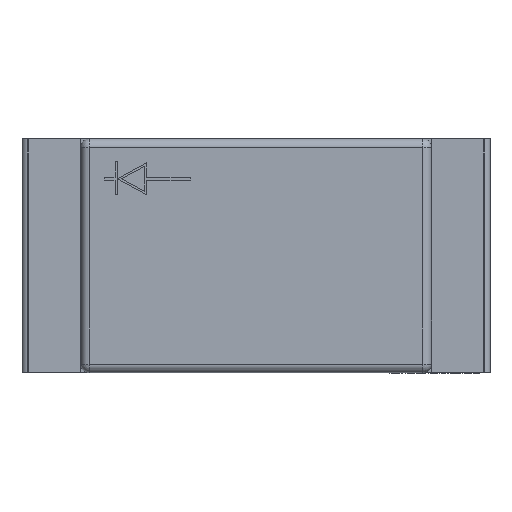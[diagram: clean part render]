
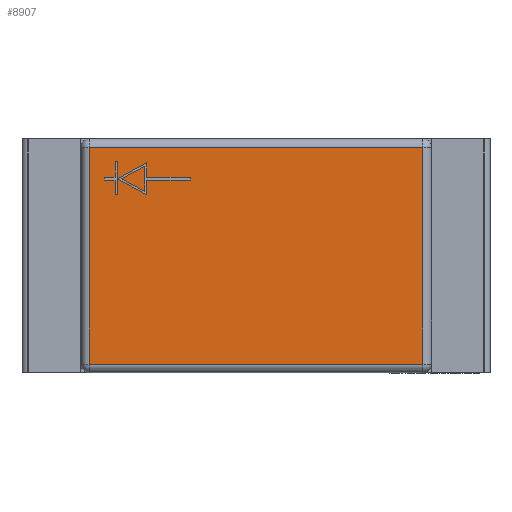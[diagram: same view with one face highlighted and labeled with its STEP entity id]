
A CAD part, top view. The second image highlights one B-rep face of the part: STEP entity #8907.
In plain terms, the highlighted planar face has unit normal (0, 0, 1) as drawn and (0, 1, 0) by its records, which use the part's own axes.
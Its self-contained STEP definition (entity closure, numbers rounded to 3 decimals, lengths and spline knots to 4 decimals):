
#648=PLANE('',#9462);
#977=FACE_OUTER_BOUND('',#1488,.T.);
#1488=EDGE_LOOP('',(#6345,#6346,#6347,#6348));
#2059=LINE('',#11785,#3009);
#2065=LINE('',#11806,#3015);
#2066=LINE('',#11810,#3016);
#2067=LINE('',#11811,#3017);
#3009=VECTOR('',#9986,1.14);
#3015=VECTOR('',#10010,0.74);
#3016=VECTOR('',#10015,0.74);
#3017=VECTOR('',#10016,1.14);
#4006=VERTEX_POINT('',#11779);
#4008=VERTEX_POINT('',#11783);
#4014=VERTEX_POINT('',#11805);
#4015=VERTEX_POINT('',#11809);
#4919=EDGE_CURVE('',#4008,#4006,#2059,.T.);
#4929=EDGE_CURVE('',#4006,#4014,#2065,.T.);
#4931=EDGE_CURVE('',#4015,#4008,#2066,.T.);
#4932=EDGE_CURVE('',#4014,#4015,#2067,.T.);
#6345=ORIENTED_EDGE('',*,*,#4919,.F.);
#6346=ORIENTED_EDGE('',*,*,#4931,.F.);
#6347=ORIENTED_EDGE('',*,*,#4932,.F.);
#6348=ORIENTED_EDGE('',*,*,#4929,.F.);
#8907=ADVANCED_FACE('',(#977),#648,.F.);
#9462=AXIS2_PLACEMENT_3D('',#11808,#10013,#10014);
#9986=DIRECTION('',(1.,0.,0.));
#10010=DIRECTION('',(0.,0.,1.));
#10013=DIRECTION('center_axis',(0.,-1.,0.));
#10014=DIRECTION('ref_axis',(1.,0.,0.));
#10015=DIRECTION('',(0.,0.,-1.));
#10016=DIRECTION('',(-1.,0.,0.));
#11779=CARTESIAN_POINT('',(0.57,0.23,-0.37));
#11783=CARTESIAN_POINT('',(-0.57,0.23,-0.37));
#11785=CARTESIAN_POINT('',(-1.401,0.23,-0.37));
#11805=CARTESIAN_POINT('',(0.57,0.23,0.37));
#11806=CARTESIAN_POINT('',(0.57,0.23,0.4));
#11808=CARTESIAN_POINT('Origin',(-1.401,0.23,0.4));
#11809=CARTESIAN_POINT('',(-0.57,0.23,0.37));
#11810=CARTESIAN_POINT('',(-0.57,0.23,0.4));
#11811=CARTESIAN_POINT('',(-1.401,0.23,0.37));
